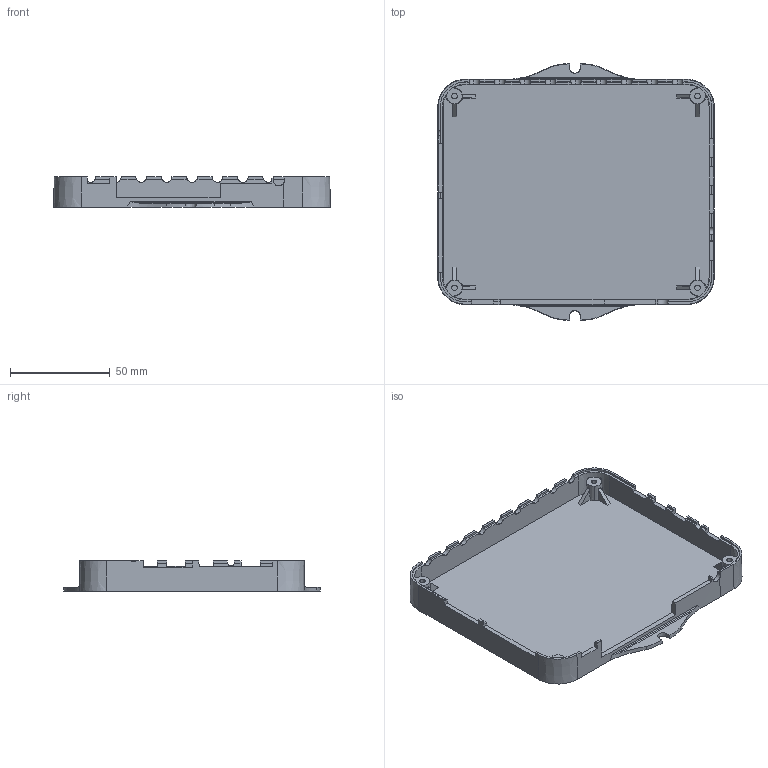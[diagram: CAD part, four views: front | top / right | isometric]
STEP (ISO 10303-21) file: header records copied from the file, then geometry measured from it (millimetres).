
FILE_DESCRIPTION(('STEP AP214'),'1');
FILE_NAME('PL_stm32 v0.7b v68 bottom.stp','2020-01-22T13:05:42',(' '),(' '),'Spatial InterOp 3D',' ',' ');
FILE_SCHEMA(('AUTOMOTIVE_DESIGN { 1 0 10303 214 1 1 1 1 }'));
Length unit declared in the file: metre
Products named in the file (4): proto3; bottom_case; stm32 v0.7b v68 bottom; PL_stm32 v0.7b v68 bottom
Assembly tree (3 placements, depth 4):
  PL_stm32 v0.7b v68 bottom
    stm32 v0.7b v68 bottom
      proto3
        bottom_case
Bounding box: 138.33 x 128.45 x 15.08 mm (x, y, z)
Volume: 45678.9 mm3; surface area: 43969 mm2
Topology: 1 solids, 1 shells, 225 faces, 657 edges, 438 vertices
Faces by surface type: plane 152, cylinder 33, cone 22, bspline 18
Entity records: 11518 total; most frequent: CARTESIAN_POINT 3643, ORIENTED_EDGE 1314, DIRECTION 1203, EDGE_CURVE 657, VERTEX_POINT 438, LINE 405, VECTOR 405, AXIS2_PLACEMENT_3D 399
